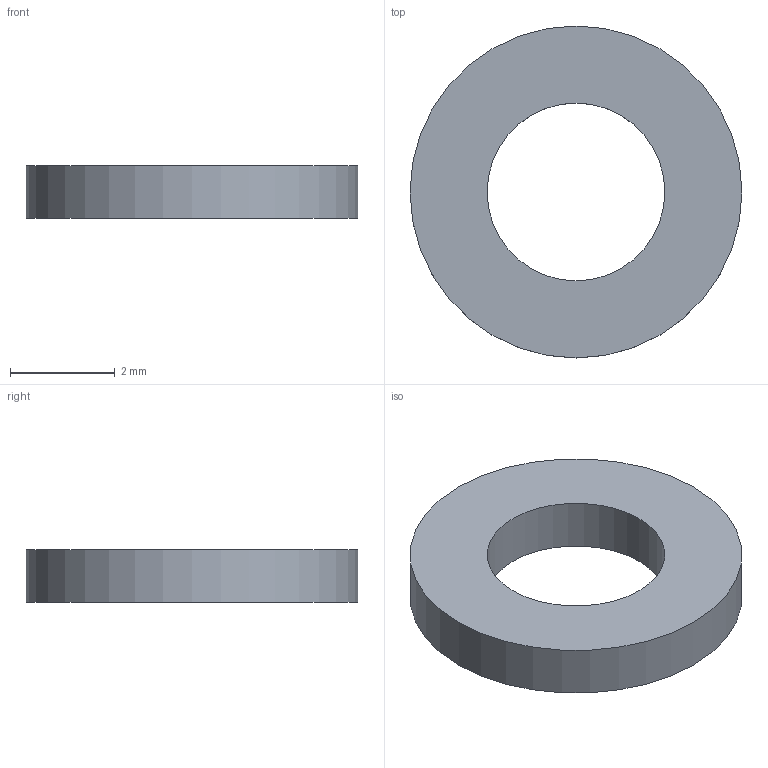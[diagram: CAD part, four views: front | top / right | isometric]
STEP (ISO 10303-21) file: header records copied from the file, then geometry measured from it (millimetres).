
FILE_DESCRIPTION(/* description */ ('STEP AP242 Edition 2','CAx-IF Rec.Pracs.---Representation and Presentation of Product Manufacturing Information (PMI)---4.0---2014-10-13','CAx-IF Rec.Pracs.---3D Tessellated Geometry---0.4---2014-09-14','2;1','CAx-IF Rec.Pracs.---User Defined Attributes---1.5---2016-08-15'),/* implementation_level */ '2;1');
FILE_NAME(/* name */ 'Main - Spacer',/* time_stamp */ '2026-07-24T17:05:37Z',/* author */ (''),/* organization */ (''),/* preprocessor_version */ 'ST-DEVELOPER v20',/* originating_system */ 'ONSHAPE BY PTC INC, 1.218',/* authorisation */ ' ');
FILE_SCHEMA (('AP242_MANAGED_MODEL_BASED_3D_ENGINEERING_MIM_LF { 1 0 10303 442 3 1 4 }'));
Length unit declared in the file: metre
Products named in the file (1): Spacer
Bounding box: 6.35 x 6.35 x 1 mm (x, y, z)
Volume: 22.6 mm3; surface area: 75.8 mm2
Topology: 1 solids, 1 shells, 4 faces, 6 edges, 4 vertices
Faces by surface type: cylinder 2, plane 2
Full cylindrical faces by diameter (mm): 3.4 x1, 6.35 x1
Entity records: 110 total; most frequent: DIRECTION 18, CARTESIAN_POINT 13, AXIS2_PLACEMENT_3D 9, ORIENTED_EDGE 8, EDGE_LOOP 8, FACE_BOUND 8, EDGE_CURVE 4, VERTEX_POINT 4
